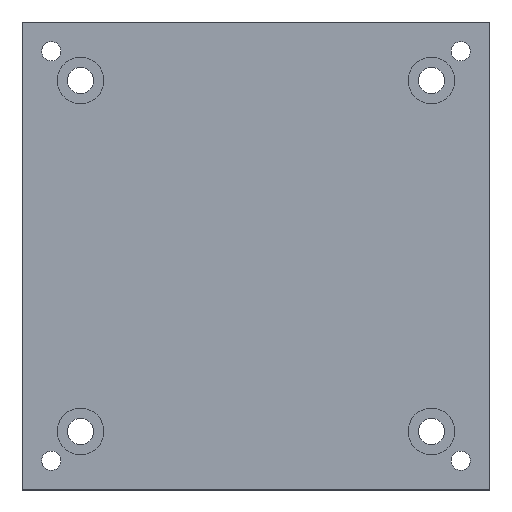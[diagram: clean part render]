
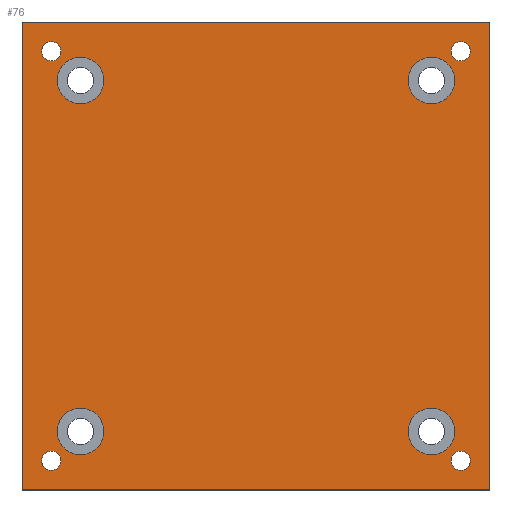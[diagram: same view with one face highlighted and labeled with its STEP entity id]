
A CAD part, top view. The second image highlights one B-rep face of the part: STEP entity #76.
In plain terms, the highlighted planar face has unit normal (0, 0, 1).
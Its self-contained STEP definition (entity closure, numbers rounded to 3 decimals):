
#76 = ADVANCED_FACE( '', ( #100, #101, #102, #103, #104, #105, #106, #107, #108 ), #109, .F. );
#100 = FACE_BOUND( '', #176, .T. );
#101 = FACE_BOUND( '', #177, .T. );
#102 = FACE_BOUND( '', #178, .T. );
#103 = FACE_BOUND( '', #179, .T. );
#104 = FACE_BOUND( '', #180, .T. );
#105 = FACE_BOUND( '', #181, .T. );
#106 = FACE_BOUND( '', #182, .T. );
#107 = FACE_BOUND( '', #183, .T. );
#108 = FACE_OUTER_BOUND( '', #184, .T. );
#109 = PLANE( '', #185 );
#176 = EDGE_LOOP( '', ( #257 ) );
#177 = EDGE_LOOP( '', ( #258 ) );
#178 = EDGE_LOOP( '', ( #259 ) );
#179 = EDGE_LOOP( '', ( #260 ) );
#180 = EDGE_LOOP( '', ( #261 ) );
#181 = EDGE_LOOP( '', ( #262 ) );
#182 = EDGE_LOOP( '', ( #263 ) );
#183 = EDGE_LOOP( '', ( #264 ) );
#184 = EDGE_LOOP( '', ( #265, #266, #267, #268 ) );
#185 = AXIS2_PLACEMENT_3D( '', #269, #270, #271 );
#257 = ORIENTED_EDGE( '', *, *, #392, .T. );
#258 = ORIENTED_EDGE( '', *, *, #393, .T. );
#259 = ORIENTED_EDGE( '', *, *, #394, .T. );
#260 = ORIENTED_EDGE( '', *, *, #395, .T. );
#261 = ORIENTED_EDGE( '', *, *, #396, .T. );
#262 = ORIENTED_EDGE( '', *, *, #397, .T. );
#263 = ORIENTED_EDGE( '', *, *, #398, .T. );
#264 = ORIENTED_EDGE( '', *, *, #399, .T. );
#265 = ORIENTED_EDGE( '', *, *, #388, .F. );
#266 = ORIENTED_EDGE( '', *, *, #400, .F. );
#267 = ORIENTED_EDGE( '', *, *, #401, .F. );
#268 = ORIENTED_EDGE( '', *, *, #402, .F. );
#269 = CARTESIAN_POINT( '', ( -40., 40., 8. ) );
#270 = DIRECTION( '', ( 0., 0., -1. ) );
#271 = DIRECTION( '', ( 0., 1., 0. ) );
#388 = EDGE_CURVE( '', #424, #425, #426, .T. );
#392 = EDGE_CURVE( '', #432, #432, #433, .T. );
#393 = EDGE_CURVE( '', #434, #434, #435, .T. );
#394 = EDGE_CURVE( '', #436, #436, #437, .T. );
#395 = EDGE_CURVE( '', #438, #438, #439, .T. );
#396 = EDGE_CURVE( '', #440, #440, #441, .T. );
#397 = EDGE_CURVE( '', #442, #442, #443, .T. );
#398 = EDGE_CURVE( '', #444, #444, #445, .T. );
#399 = EDGE_CURVE( '', #446, #446, #447, .T. );
#400 = EDGE_CURVE( '', #448, #424, #449, .T. );
#401 = EDGE_CURVE( '', #450, #448, #451, .T. );
#402 = EDGE_CURVE( '', #425, #450, #452, .T. );
#424 = VERTEX_POINT( '', #492 );
#425 = VERTEX_POINT( '', #493 );
#426 = LINE( '', #494, #495 );
#432 = VERTEX_POINT( '', #504 );
#433 = CIRCLE( '', #505, 4. );
#434 = VERTEX_POINT( '', #506 );
#435 = CIRCLE( '', #507, 4. );
#436 = VERTEX_POINT( '', #508 );
#437 = CIRCLE( '', #509, 4. );
#438 = VERTEX_POINT( '', #510 );
#439 = CIRCLE( '', #511, 4. );
#440 = VERTEX_POINT( '', #512 );
#441 = CIRCLE( '', #513, 1.65 );
#442 = VERTEX_POINT( '', #514 );
#443 = CIRCLE( '', #515, 1.65 );
#444 = VERTEX_POINT( '', #516 );
#445 = CIRCLE( '', #517, 1.65 );
#446 = VERTEX_POINT( '', #518 );
#447 = CIRCLE( '', #519, 1.65 );
#448 = VERTEX_POINT( '', #520 );
#449 = LINE( '', #521, #522 );
#450 = VERTEX_POINT( '', #523 );
#451 = LINE( '', #524, #525 );
#452 = LINE( '', #526, #527 );
#492 = CARTESIAN_POINT( '', ( -40., -40., 8. ) );
#493 = CARTESIAN_POINT( '', ( -40., 40., 8. ) );
#494 = CARTESIAN_POINT( '', ( -40., -40., 8. ) );
#495 = VECTOR( '', #572, 1000. );
#504 = CARTESIAN_POINT( '', ( -26., 30., 8. ) );
#505 = AXIS2_PLACEMENT_3D( '', #576, #577, #578 );
#506 = CARTESIAN_POINT( '', ( 34., 30., 8. ) );
#507 = AXIS2_PLACEMENT_3D( '', #579, #580, #581 );
#508 = CARTESIAN_POINT( '', ( 34., -30., 8. ) );
#509 = AXIS2_PLACEMENT_3D( '', #582, #583, #584 );
#510 = CARTESIAN_POINT( '', ( -26., -30., 8. ) );
#511 = AXIS2_PLACEMENT_3D( '', #585, #586, #587 );
#512 = CARTESIAN_POINT( '', ( -33.35, 35., 8. ) );
#513 = AXIS2_PLACEMENT_3D( '', #588, #589, #590 );
#514 = CARTESIAN_POINT( '', ( 36.65, 35., 8. ) );
#515 = AXIS2_PLACEMENT_3D( '', #591, #592, #593 );
#516 = CARTESIAN_POINT( '', ( 36.65, -35., 8. ) );
#517 = AXIS2_PLACEMENT_3D( '', #594, #595, #596 );
#518 = CARTESIAN_POINT( '', ( -33.35, -35., 8. ) );
#519 = AXIS2_PLACEMENT_3D( '', #597, #598, #599 );
#520 = CARTESIAN_POINT( '', ( 40., -40., 8. ) );
#521 = CARTESIAN_POINT( '', ( 40., -40., 8. ) );
#522 = VECTOR( '', #600, 1000. );
#523 = CARTESIAN_POINT( '', ( 40., 40., 8. ) );
#524 = CARTESIAN_POINT( '', ( 40., 40., 8. ) );
#525 = VECTOR( '', #601, 1000. );
#526 = CARTESIAN_POINT( '', ( -40., 40., 8. ) );
#527 = VECTOR( '', #602, 1000. );
#572 = DIRECTION( '', ( 0., 1., 0. ) );
#576 = CARTESIAN_POINT( '', ( -30., 30., 8. ) );
#577 = DIRECTION( '', ( 0., 0., -1. ) );
#578 = DIRECTION( '', ( 1., 0., 0. ) );
#579 = CARTESIAN_POINT( '', ( 30., 30., 8. ) );
#580 = DIRECTION( '', ( 0., 0., -1. ) );
#581 = DIRECTION( '', ( 1., 0., 0. ) );
#582 = CARTESIAN_POINT( '', ( 30., -30., 8. ) );
#583 = DIRECTION( '', ( 0., 0., -1. ) );
#584 = DIRECTION( '', ( 1., 0., 0. ) );
#585 = CARTESIAN_POINT( '', ( -30., -30., 8. ) );
#586 = DIRECTION( '', ( 0., 0., -1. ) );
#587 = DIRECTION( '', ( 1., 0., 0. ) );
#588 = CARTESIAN_POINT( '', ( -35., 35., 8. ) );
#589 = DIRECTION( '', ( 0., 0., -1. ) );
#590 = DIRECTION( '', ( 1., 0., 0. ) );
#591 = CARTESIAN_POINT( '', ( 35., 35., 8. ) );
#592 = DIRECTION( '', ( 0., 0., -1. ) );
#593 = DIRECTION( '', ( 1., 0., 0. ) );
#594 = CARTESIAN_POINT( '', ( 35., -35., 8. ) );
#595 = DIRECTION( '', ( 0., 0., -1. ) );
#596 = DIRECTION( '', ( 1., 0., 0. ) );
#597 = CARTESIAN_POINT( '', ( -35., -35., 8. ) );
#598 = DIRECTION( '', ( 0., 0., -1. ) );
#599 = DIRECTION( '', ( 1., 0., 0. ) );
#600 = DIRECTION( '', ( -1., 0., 0. ) );
#601 = DIRECTION( '', ( 0., -1., 0. ) );
#602 = DIRECTION( '', ( 1., 0., 0. ) );
